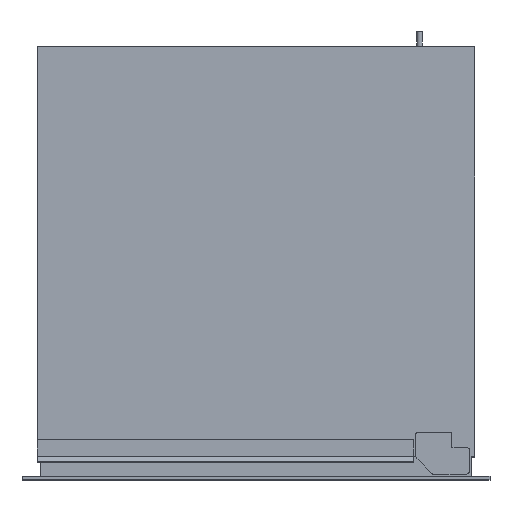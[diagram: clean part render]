
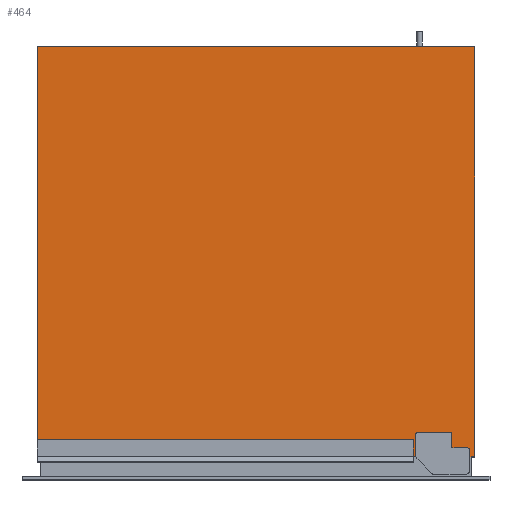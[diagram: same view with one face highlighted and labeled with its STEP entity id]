
A CAD part, top view. The second image highlights one B-rep face of the part: STEP entity #464.
In plain terms, the highlighted planar face has unit normal (0, 0, 1).
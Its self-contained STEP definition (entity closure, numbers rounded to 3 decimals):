
#150=CIRCLE('',#2646,5.);
#151=CIRCLE('',#2647,3.);
#152=CIRCLE('',#2648,3.);
#153=CIRCLE('',#2649,3.);
#464=ADVANCED_FACE('',(#698),#579,.T.);
#579=PLANE('',#2650);
#698=FACE_OUTER_BOUND('',#846,.T.);
#846=EDGE_LOOP('',(#1309,#1310,#1311,#1312,#1313,#1314,#1315,#1316,#1317,
#1318,#1319,#1320,#1321,#1322,#1323,#1324,#1325,#1326));
#1309=ORIENTED_EDGE('',*,*,#1957,.F.);
#1310=ORIENTED_EDGE('',*,*,#1958,.T.);
#1311=ORIENTED_EDGE('',*,*,#1959,.F.);
#1312=ORIENTED_EDGE('',*,*,#1960,.F.);
#1313=ORIENTED_EDGE('',*,*,#1961,.T.);
#1314=ORIENTED_EDGE('',*,*,#1962,.F.);
#1315=ORIENTED_EDGE('',*,*,#1963,.F.);
#1316=ORIENTED_EDGE('',*,*,#1964,.T.);
#1317=ORIENTED_EDGE('',*,*,#1965,.T.);
#1318=ORIENTED_EDGE('',*,*,#1966,.T.);
#1319=ORIENTED_EDGE('',*,*,#1967,.F.);
#1320=ORIENTED_EDGE('',*,*,#1968,.F.);
#1321=ORIENTED_EDGE('',*,*,#1969,.F.);
#1322=ORIENTED_EDGE('',*,*,#1970,.F.);
#1323=ORIENTED_EDGE('',*,*,#1971,.F.);
#1324=ORIENTED_EDGE('',*,*,#1972,.F.);
#1325=ORIENTED_EDGE('',*,*,#1973,.F.);
#1326=ORIENTED_EDGE('',*,*,#1974,.F.);
#1677=VERTEX_POINT('',#4116);
#1678=VERTEX_POINT('',#4117);
#1679=VERTEX_POINT('',#4119);
#1680=VERTEX_POINT('',#4121);
#1681=VERTEX_POINT('',#4123);
#1682=VERTEX_POINT('',#4125);
#1683=VERTEX_POINT('',#4127);
#1684=VERTEX_POINT('',#4129);
#1685=VERTEX_POINT('',#4131);
#1686=VERTEX_POINT('',#4133);
#1687=VERTEX_POINT('',#4135);
#1688=VERTEX_POINT('',#4137);
#1689=VERTEX_POINT('',#4139);
#1690=VERTEX_POINT('',#4141);
#1691=VERTEX_POINT('',#4143);
#1692=VERTEX_POINT('',#4145);
#1693=VERTEX_POINT('',#4147);
#1694=VERTEX_POINT('',#4149);
#1957=EDGE_CURVE('',#1677,#1678,#2209,.T.);
#1958=EDGE_CURVE('',#1677,#1679,#2210,.T.);
#1959=EDGE_CURVE('',#1680,#1679,#2211,.T.);
#1960=EDGE_CURVE('',#1681,#1680,#2212,.T.);
#1961=EDGE_CURVE('',#1681,#1682,#2213,.T.);
#1962=EDGE_CURVE('',#1683,#1682,#2214,.T.);
#1963=EDGE_CURVE('',#1684,#1683,#2215,.T.);
#1964=EDGE_CURVE('',#1684,#1685,#2216,.T.);
#1965=EDGE_CURVE('',#1685,#1686,#2217,.T.);
#1966=EDGE_CURVE('',#1686,#1687,#2218,.T.);
#1967=EDGE_CURVE('',#1688,#1687,#150,.T.);
#1968=EDGE_CURVE('',#1689,#1688,#2219,.T.);
#1969=EDGE_CURVE('',#1690,#1689,#151,.T.);
#1970=EDGE_CURVE('',#1691,#1690,#2220,.T.);
#1971=EDGE_CURVE('',#1692,#1691,#152,.T.);
#1972=EDGE_CURVE('',#1693,#1692,#2221,.T.);
#1973=EDGE_CURVE('',#1694,#1693,#2222,.T.);
#1974=EDGE_CURVE('',#1678,#1694,#153,.T.);
#2209=LINE('',#4115,#2439);
#2210=LINE('',#4118,#2440);
#2211=LINE('',#4120,#2441);
#2212=LINE('',#4122,#2442);
#2213=LINE('',#4124,#2443);
#2214=LINE('',#4126,#2444);
#2215=LINE('',#4128,#2445);
#2216=LINE('',#4130,#2446);
#2217=LINE('',#4132,#2447);
#2218=LINE('',#4134,#2448);
#2219=LINE('',#4138,#2449);
#2220=LINE('',#4142,#2450);
#2221=LINE('',#4146,#2451);
#2222=LINE('',#4148,#2452);
#2439=VECTOR('',#3128,1.);
#2440=VECTOR('',#3129,1.);
#2441=VECTOR('',#3130,1.);
#2442=VECTOR('',#3131,1.);
#2443=VECTOR('',#3132,1.);
#2444=VECTOR('',#3133,1.);
#2445=VECTOR('',#3134,1.);
#2446=VECTOR('',#3135,1.);
#2447=VECTOR('',#3136,1.);
#2448=VECTOR('',#3137,1.);
#2449=VECTOR('',#3140,1.);
#2450=VECTOR('',#3143,1.);
#2451=VECTOR('',#3146,1.);
#2452=VECTOR('',#3147,1.);
#2646=AXIS2_PLACEMENT_3D('',#4136,#3138,#3139);
#2647=AXIS2_PLACEMENT_3D('',#4140,#3141,#3142);
#2648=AXIS2_PLACEMENT_3D('',#4144,#3144,#3145);
#2649=AXIS2_PLACEMENT_3D('',#4150,#3148,#3149);
#2650=AXIS2_PLACEMENT_3D('',#4151,#3150,#3151);
#3128=DIRECTION('',(0.,1.,0.));
#3129=DIRECTION('',(1.,0.,0.));
#3130=DIRECTION('',(0.,-1.,0.));
#3131=DIRECTION('',(1.,0.,0.));
#3132=DIRECTION('',(0.,-1.,0.));
#3133=DIRECTION('',(-1.,0.,0.));
#3134=DIRECTION('',(0.,1.,0.));
#3135=DIRECTION('',(-1.,0.,0.));
#3136=DIRECTION('',(0.,-1.,0.));
#3137=DIRECTION('',(1.,0.,0.));
#3138=DIRECTION('',(0.,0.,1.));
#3139=DIRECTION('',(1.,0.,0.));
#3140=DIRECTION('',(0.,-1.,0.));
#3141=DIRECTION('',(0.,0.,1.));
#3142=DIRECTION('',(1.,0.,0.));
#3143=DIRECTION('',(-1.,0.,0.));
#3144=DIRECTION('',(0.,0.,1.));
#3145=DIRECTION('',(1.,0.,0.));
#3146=DIRECTION('',(0.,1.,0.));
#3147=DIRECTION('',(-1.,0.,0.));
#3148=DIRECTION('',(0.,0.,1.));
#3149=DIRECTION('',(1.,0.,0.));
#3150=DIRECTION('',(0.,0.,1.));
#3151=DIRECTION('',(-1.,0.,0.));
#4115=CARTESIAN_POINT('',(544.95,-484.952,256.355));
#4116=CARTESIAN_POINT('',(544.95,-467.952,256.355));
#4117=CARTESIAN_POINT('',(544.95,-459.952,256.355));
#4118=CARTESIAN_POINT('',(-6.05,-467.952,256.355));
#4119=CARTESIAN_POINT('',(550.95,-467.952,256.355));
#4120=CARTESIAN_POINT('',(550.95,54.048,256.355));
#4121=CARTESIAN_POINT('',(550.95,54.048,256.355));
#4122=CARTESIAN_POINT('',(-6.05,54.048,256.355));
#4123=CARTESIAN_POINT('',(-6.05,54.048,256.355));
#4124=CARTESIAN_POINT('',(-6.05,54.048,256.355));
#4125=CARTESIAN_POINT('',(-6.05,-446.47,256.355));
#4126=CARTESIAN_POINT('',(472.85,-446.47,256.355));
#4127=CARTESIAN_POINT('',(472.85,-446.47,256.355));
#4128=CARTESIAN_POINT('',(472.85,-467.47,256.355));
#4129=CARTESIAN_POINT('',(472.85,-467.47,256.355));
#4130=CARTESIAN_POINT('',(472.85,-467.47,256.355));
#4131=CARTESIAN_POINT('',(-6.05,-467.47,256.355));
#4132=CARTESIAN_POINT('',(-6.05,54.048,256.355));
#4133=CARTESIAN_POINT('',(-6.05,-467.952,256.355));
#4134=CARTESIAN_POINT('',(-6.05,-467.952,256.355));
#4135=CARTESIAN_POINT('',(476.089,-467.952,256.355));
#4136=CARTESIAN_POINT('',(480.95,-466.781,256.355));
#4137=CARTESIAN_POINT('',(475.95,-466.781,256.355));
#4138=CARTESIAN_POINT('',(475.95,-439.952,256.355));
#4139=CARTESIAN_POINT('',(475.95,-439.952,256.355));
#4140=CARTESIAN_POINT('',(478.95,-439.952,256.355));
#4141=CARTESIAN_POINT('',(478.95,-436.952,256.355));
#4142=CARTESIAN_POINT('',(518.95,-436.952,256.355));
#4143=CARTESIAN_POINT('',(518.95,-436.952,256.355));
#4144=CARTESIAN_POINT('',(518.95,-439.952,256.355));
#4145=CARTESIAN_POINT('',(521.95,-439.952,256.355));
#4146=CARTESIAN_POINT('',(521.95,-456.952,256.355));
#4147=CARTESIAN_POINT('',(521.95,-456.952,256.355));
#4148=CARTESIAN_POINT('',(541.95,-456.952,256.355));
#4149=CARTESIAN_POINT('',(541.95,-456.952,256.355));
#4150=CARTESIAN_POINT('',(541.95,-459.952,256.355));
#4151=CARTESIAN_POINT('',(-6.05,54.048,256.355));
